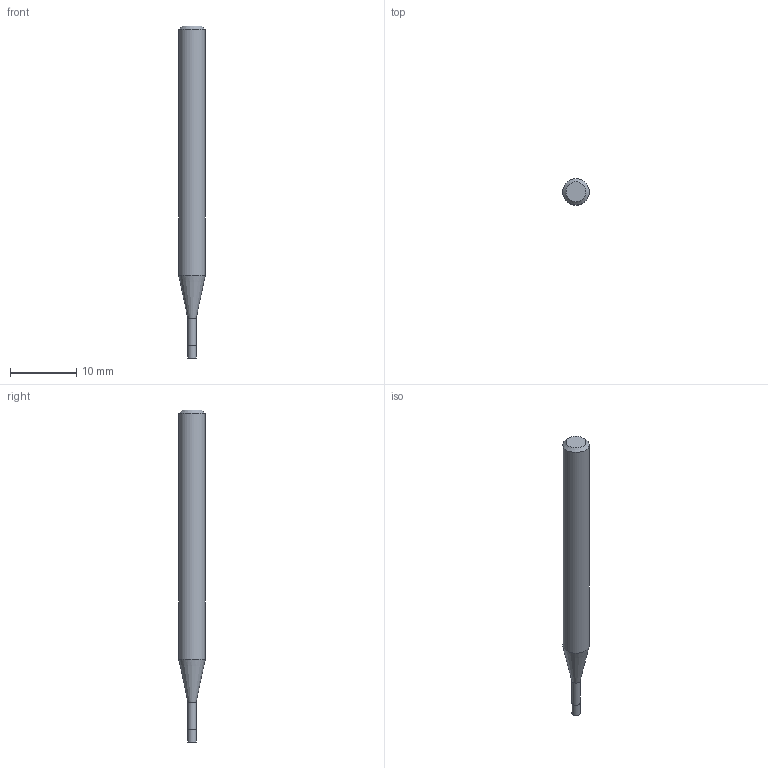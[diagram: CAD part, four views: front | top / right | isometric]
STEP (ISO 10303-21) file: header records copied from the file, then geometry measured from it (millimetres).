
FILE_DESCRIPTION((''),'2;1');
FILE_NAME('C:\Users\nsx150\AppData\Local\Temp\Mastercam 2021\17T8Q8S9EB\TEMP.step','2021-04-21T16:14:32',(''),(''),'STEP Write','Mastercam 2021 ... CNC Software, Inc.','');
FILE_SCHEMA(('AUTOMOTIVE_DESIGN'));
Length unit declared in the file: millimetre
Products named in the file (1): None
Bounding box: 4 x 4 x 50 mm (x, y, z)
Volume: 516 mm3; surface area: 562.5 mm2
Topology: 2 solids, 2 shells, 9 faces, 12 edges, 7 vertices
Faces by surface type: plane 4, cylinder 3, cone 2
Full cylindrical faces by diameter (mm): 1.25 x1, 1.3 x1, 4 x1
Entity records: 211 total; most frequent: DIRECTION 36, CARTESIAN_POINT 25, AXIS2_PLACEMENT_3D 18, ORIENTED_EDGE 14, EDGE_LOOP 14, STYLED_ITEM 12, ADVANCED_FACE 9, FACE_BOUND 8
